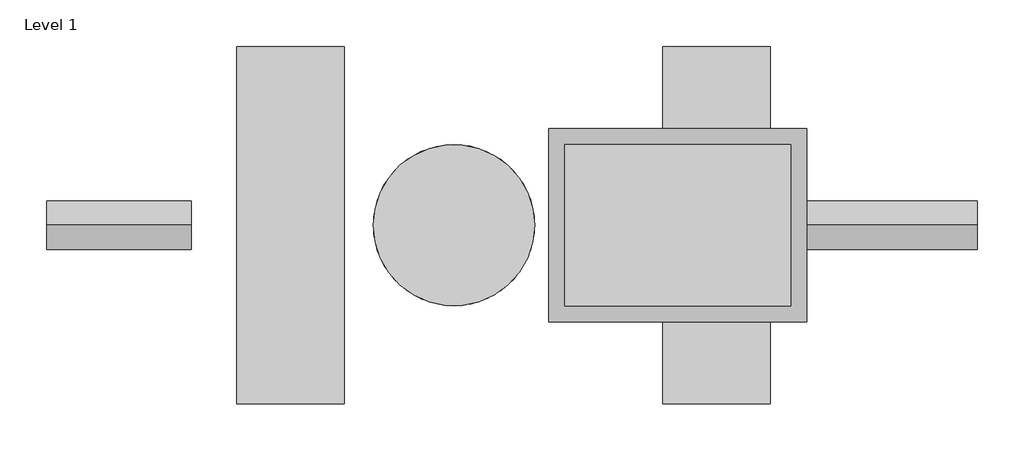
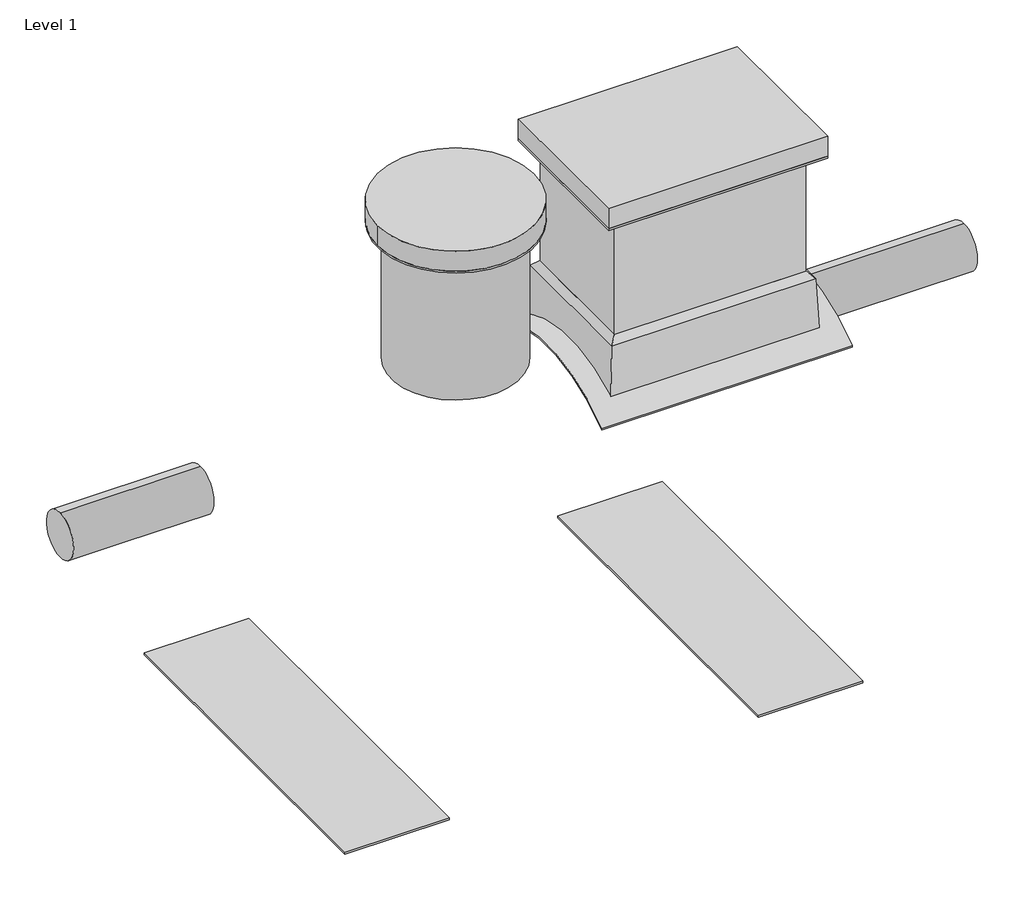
# One storey, incomplete: 9 proxies.
"""IFC4 building model written with IfcOpenShell, lengths in millimetres."""

import ifcopenshell
import ifcopenshell.guid

model = None  # the IFC model being written
_history = None  # IfcOwnerHistory: only IFC2X3 demands one
_inside = {}  # id of a spatial element -> (the spatial element, [elements in it])
_under = {}  # id of a project, library or spatial element -> (it, [spatial elements below it])
_declared = {}  # id of a project -> (the project, [libraries it declares])
_typed = {}  # id of a type object -> (the type object, [elements of that type])
_made_of = {}  # id of a material, layer set ... -> (it, [elements and type objects made of it])


def new_model(schema):
    """Start an empty IFC model of exactly this schema.

    Asked for "IFC4X3", IfcOpenShell would pick the latest addendum, in which some entities
    have other attributes; the version numbers below select the first issue.
    IFC2X3 requires an IfcOwnerHistory on every rooted entity: one is made here for all.
    """
    global model, _history
    if schema == "IFC4X3":
        model = ifcopenshell.file(schema_version=(4, 3, 0, 0))
    else:
        model = ifcopenshell.file(schema=schema)
    _inside.clear()
    _under.clear()
    _declared.clear()
    _typed.clear()
    _made_of.clear()
    _history = None
    if model.schema == "IFC2X3":
        org = make("IfcOrganization", Name="unknown")
        user = make(
            "IfcPersonAndOrganization",
            ThePerson=make("IfcPerson", FamilyName="unknown"),
            TheOrganization=org,
        )
        app = make(
            "IfcApplication",
            ApplicationDeveloper=org,
            Version="unknown",
            ApplicationFullName="unknown",
            ApplicationIdentifier="unknown",
        )
        _history = make(
            "IfcOwnerHistory",
            OwningUser=user,
            OwningApplication=app,
            ChangeAction="ADDED",
            CreationDate=0,
        )
    return model


def make(cls, **values):
    """One entity of the class cls with the attributes given. An attribute that is None is left unset."""
    return model.create_entity(
        cls, **{name: value for name, value in values.items() if value is not None}
    )


def rooted(cls, **values):
    """An entity with a GlobalId (a new one), such as an element, a storey or a relation."""
    return make(cls, GlobalId=ifcopenshell.guid.new(), OwnerHistory=_history, **values)


def si_unit(unit_type, name, prefix=None):
    """IfcSIUnit, for example si_unit("LENGTHUNIT", "METRE", prefix="MILLI")."""
    return make("IfcSIUnit", UnitType=unit_type, Prefix=prefix, Name=name)


def assignment(units):
    """IfcUnitAssignment: the units of a project."""
    return None if units is None else make("IfcUnitAssignment", Units=units)


def point(xyz):
    """IfcCartesianPoint."""
    return None if xyz is None else make("IfcCartesianPoint", Coordinates=xyz)


def direction(xyz):
    """IfcDirection."""
    return None if xyz is None else make("IfcDirection", DirectionRatios=xyz)


def frame(location, z_axis=None, x_axis=None):
    """IfcAxis2Placement3D, a coordinate frame: its origin and axes. An axis left out is left unset."""
    return make(
        "IfcAxis2Placement3D",
        Location=point(location),
        Axis=direction(z_axis),
        RefDirection=direction(x_axis),
    )


def frame_2d(location, x_axis=None):
    """IfcAxis2Placement2D, a coordinate frame in the plane: its origin and x axis."""
    return make(
        "IfcAxis2Placement2D", Location=point(location), RefDirection=direction(x_axis)
    )


def origin():
    """The frame at (0, 0, 0) with its axes left unset."""
    return frame((0.0, 0.0, 0.0))


def origin_2d():
    """The frame at (0, 0) in the plane with its x axis left unset."""
    return frame_2d((0.0, 0.0))


def place(relative_to, where):
    """IfcLocalPlacement: puts the frame where relative to a parent placement (None: the world)."""
    return make(
        "IfcLocalPlacement", PlacementRelTo=relative_to, RelativePlacement=where
    )


def context(
    kind, dimensions, precision=None, world=None, true_north=None, identifier=None
):
    """IfcGeometricRepresentationContext, for example the 3D "Model" context."""
    return make(
        "IfcGeometricRepresentationContext",
        ContextIdentifier=identifier,
        ContextType=kind,
        CoordinateSpaceDimension=dimensions,
        Precision=precision,
        WorldCoordinateSystem=world,
        TrueNorth=true_north,
    )


def project(units=None, contexts=None):
    """IfcProject with its units and contexts."""
    return rooted(
        "IfcProject",
        Name="project",
        RepresentationContexts=contexts,
        UnitsInContext=assignment(units),
    )


def spatial(cls, under=None, at=None, **own):
    """A site, building, storey or space (cls), placed at a placement, below another one or the project."""
    s = rooted(cls, ObjectPlacement=at, **own)
    if under is not None:
        _under.setdefault(under.id(), (under, []))[1].append(s)
    return s


def polyline(points):
    """IfcPolyline through the points."""
    return make("IfcPolyline", Points=[point(p) for p in points])


def circle_curve(where, radius):
    """IfcCircle in the frame where."""
    return make("IfcCircle", Position=where, Radius=radius)


def ellipse_curve(where, semi_axis1, semi_axis2):
    """IfcEllipse in the frame where."""
    return make(
        "IfcEllipse", Position=where, SemiAxis1=semi_axis1, SemiAxis2=semi_axis2
    )


def trimmed(basis, trim1, trim2, sense, master):
    """IfcTrimmedCurve: the piece of a basis curve between two trims."""
    return make(
        "IfcTrimmedCurve",
        BasisCurve=basis,
        Trim1=trim1,
        Trim2=trim2,
        SenseAgreement=sense,
        MasterRepresentation=master,
    )


def segment(curve, same_sense, transition):
    """IfcCompositeCurveSegment."""
    return make(
        "IfcCompositeCurveSegment",
        Transition=transition,
        SameSense=same_sense,
        ParentCurve=curve,
    )


def composite_curve(segments, self_intersect=None):
    """IfcCompositeCurve: segments joined end to end."""
    return make("IfcCompositeCurve", Segments=segments, SelfIntersect=self_intersect)


def outline(outer, holes=None, kind="AREA"):
    """IfcArbitraryClosedProfileDef: a profile drawn as a closed curve; with holes, ...WithVoids."""
    if holes is None:
        return make("IfcArbitraryClosedProfileDef", ProfileType=kind, OuterCurve=outer)
    return make(
        "IfcArbitraryProfileDefWithVoids",
        ProfileType=kind,
        OuterCurve=outer,
        InnerCurves=holes,
    )


def extrude(swept, where, along, depth):
    """IfcExtrudedAreaSolid: the profile swept, set in the frame where, extruded along a direction by depth."""
    return make(
        "IfcExtrudedAreaSolid",
        SweptArea=swept,
        Position=where,
        ExtrudedDirection=direction(along),
        Depth=depth,
    )


def faces_of(points, faces, orient=None, outer=None):
    """IfcFace entities. A face is a list of loops; a loop is a list of indices into points, from 0.

    orient and outer hold one flag for each loop. By default every Orientation is true, the
    first loop of a face is its IfcFaceOuterBound and the others are IfcFaceBound.
    """
    made = []
    for i, loops in enumerate(faces):
        bounds = []
        for j, loop in enumerate(loops):
            is_outer = j == 0 if outer is None else outer[i][j]
            bounds.append(
                make(
                    "IfcFaceOuterBound" if is_outer else "IfcFaceBound",
                    Bound=make("IfcPolyLoop", Polygon=[points[k] for k in loop]),
                    Orientation=True if orient is None else orient[i][j],
                )
            )
        made.append(make("IfcFace", Bounds=bounds))
    return made


def faceted_brep(points, faces, orient=None, outer=None, voids=None):
    """IfcFacetedBrep: a solid bounded by flat faces; with voids (closed shells), ...WithVoids."""
    shared = [point(p) for p in points]
    hull = make("IfcClosedShell", CfsFaces=faces_of(shared, faces, orient, outer))
    if voids is None:
        return make("IfcFacetedBrep", Outer=hull)
    return make(
        "IfcFacetedBrepWithVoids",
        Outer=hull,
        Voids=[
            make(cls, CfsFaces=faces_of(shared, fs, o, b)) for cls, fs, o, b in voids
        ],
    )


def shape(context_of_items, identifier, shape_type, items):
    """IfcShapeRepresentation: the items that make up one representation, for example the "Body"."""
    return make(
        "IfcShapeRepresentation",
        ContextOfItems=context_of_items,
        RepresentationIdentifier=identifier,
        RepresentationType=shape_type,
        Items=items,
    )


def source(mapping_origin, context_of_items, identifier, shape_type, items):
    """IfcRepresentationMap: a shape defined once, which mapped items show again and again."""
    return make(
        "IfcRepresentationMap",
        MappingOrigin=mapping_origin,
        MappedRepresentation=shape(context_of_items, identifier, shape_type, items),
    )


def transform(
    local_origin,
    x_axis=None,
    y_axis=None,
    z_axis=None,
    scale=None,
    scale2=None,
    scale3=None,
    uniform=True,
):
    """IfcCartesianTransformationOperator3D, or its non-uniform kind. x_axis, y_axis, z_axis: its Axis1, 2, 3."""
    if uniform:
        return make(
            "IfcCartesianTransformationOperator3D",
            Axis1=direction(x_axis),
            Axis2=direction(y_axis),
            LocalOrigin=point(local_origin),
            Scale=scale,
            Axis3=direction(z_axis),
        )
    return make(
        "IfcCartesianTransformationOperator3DnonUniform",
        Axis1=direction(x_axis),
        Axis2=direction(y_axis),
        LocalOrigin=point(local_origin),
        Scale=scale,
        Axis3=direction(z_axis),
        Scale2=scale2,
        Scale3=scale3,
    )


def mapped(mapping_source, mapping_target):
    """IfcMappedItem: shows the shape of a source again, moved by a transform."""
    return make(
        "IfcMappedItem", MappingSource=mapping_source, MappingTarget=mapping_target
    )


def made_of(thing, what):
    """Note that an element or type object is made of a material, layer set ...; save() writes the relation."""
    if what is not None:
        _made_of.setdefault(what.id(), (what, []))[1].append(thing)
    return thing


def element(
    cls,
    number,
    at=None,
    inside=None,
    cuts=None,
    type_object=None,
    material=None,
    context=None,
    identifier="Body",
    shape_type=None,
    held_by="IfcProductDefinitionShape",
    body=None,
    shapes=None,
    **own,
):
    """One element of the class cls, such as IfcWall. Its Tag is "e" and its number.

    at: its placement. inside: the storey or other place that contains it. cuts: it is an
    opening in that element (IfcRelVoidsElement). A single representation is given by context,
    identifier, shape_type and body (its items); several are given by shapes. held_by: the class
    of the entity that holds the representations. save() writes the other relations.
    """
    e = rooted(cls, Tag="e%d" % number, ObjectPlacement=at, **own)
    if body is not None:
        shapes = [shape(context, identifier, shape_type, body)]
    if shapes is not None:
        e.Representation = make(held_by, Representations=shapes)
    if inside is not None:
        _inside.setdefault(inside.id(), (inside, []))[1].append(e)
    if cuts is not None:
        rooted(
            "IfcRelVoidsElement", RelatingBuildingElement=cuts, RelatedOpeningElement=e
        )
    if type_object is not None:
        _typed.setdefault(type_object.id(), (type_object, []))[1].append(e)
    return made_of(e, material)


def aggregate(whole, parts):
    """IfcRelAggregates: a whole, such as a stair, and the parts it consists of."""
    return rooted("IfcRelAggregates", RelatingObject=whole, RelatedObjects=parts)


def save(model, path):
    """Write the relations noted so far, then the file.

    IfcRelAggregates (storeys below a building ...), IfcRelContainedInSpatialStructure (elements
    in a storey), IfcRelDefinesByType, IfcRelAssociatesMaterial and IfcRelDeclares: one each for
    every whole, place, type object, material and project.
    """
    for whole, parts in _under.values():
        aggregate(whole, parts)
    for where, things in _inside.values():
        rooted(
            "IfcRelContainedInSpatialStructure",
            RelatedElements=things,
            RelatingStructure=where,
        )
    for kind, things in _typed.values():
        rooted("IfcRelDefinesByType", RelatedObjects=things, RelatingType=kind)
    for what, things in _made_of.values():
        rooted("IfcRelAssociatesMaterial", RelatedObjects=things, RelatingMaterial=what)
    for by, libraries in _declared.values():
        rooted("IfcRelDeclares", RelatingContext=by, RelatedDefinitions=libraries)
    model.write(path)


def plane_surface(at):
    """IfcPlane: the flat surface through the origin of the frame at, square to its z axis."""
    return make("IfcPlane", Position=at)


def cylinder_surface(at, radius):
    """IfcCylindricalSurface: all points at the distance radius from the z axis of the frame at."""
    return make("IfcCylindricalSurface", Position=at, Radius=radius)


def revolved_surface(curve, axis_point, axis_direction):
    """IfcSurfaceOfRevolution: the curve turned about the line through axis_point along axis_direction."""
    return make(
        "IfcSurfaceOfRevolution",
        SweptCurve=make("IfcArbitraryOpenProfileDef", ProfileType="CURVE", Curve=curve),
        AxisPosition=make("IfcAxis1Placement", Location=point(axis_point), Axis=direction(axis_direction)),
    )


def advanced_brep(points, edges, surfaces, faces):
    """IfcAdvancedBrep: a solid bounded by faces that lie on surfaces and meet in shared edges.

    An edge is (start, end): straight between two places in points (the first is 0);
    or (start, end, curve); or (start, end, curve, False) where it runs against its curve.
    A face is (place in surfaces, loops), or (place, loops, False) where it looks against
    its surface's normal. A loop lists edges by number (the first is 1), with a minus sign
    where the edge is run from its end to its start. The first loop is the outer one.
    """
    corners = [point(p) for p in points]
    vertices = [make("IfcVertexPoint", VertexGeometry=c) for c in corners]
    made = []
    for start, end, *more in edges:
        made.append(
            make(
                "IfcEdgeCurve",
                EdgeStart=vertices[start],
                EdgeEnd=vertices[end],
                EdgeGeometry=more[0] if more else make("IfcPolyline", Points=[corners[start], corners[end]]),
                SameSense=more[1] if len(more) > 1 else True,
            )
        )
    hull = []
    for where, loops, *sense in faces:
        bounds = []
        for j, loop in enumerate(loops):
            ring = [make("IfcOrientedEdge", EdgeElement=made[abs(k) - 1], Orientation=k > 0) for k in loop]
            bounds.append(
                make(
                    "IfcFaceOuterBound" if j == 0 else "IfcFaceBound",
                    Bound=make("IfcEdgeLoop", EdgeList=ring),
                    Orientation=True,
                )
            )
        hull.append(make("IfcAdvancedFace", Bounds=bounds, FaceSurface=surfaces[where], SameSense=sense[0] if sense else True))
    return make("IfcAdvancedBrep", Outer=make("IfcClosedShell", CfsFaces=hull))


def generic_models_dbd98303(model_context):
    return source(origin(), model_context, "Body", "SweptSolid", [
        extrude(outline(polyline([(-832.0, 0.0), (832.0, 0.0), (832.0, -10.0), (-832.0, -10.0), (-832.0, 0.0)])), frame((0.0, 0.0, -100.0), z_axis=(0.0, 0.0, 1.0), x_axis=(1.0, 0.0, 0.0)), (0.0, 0.0, 1.0), 500.0),
    ])


def generic_models_2a316d6d(model_context):
    return source(origin(), model_context, "Body", "SweptSolid", [
        extrude(outline(composite_curve([segment(trimmed(circle_curve(origin_2d(), 375.0), [point((0.0, 375.0))], [point((0.0, -375.0))], False, "CARTESIAN"), True, "CONTINUOUS"), segment(trimmed(circle_curve(origin_2d(), 375.0), [point((0.0, -375.0))], [point((0.0, 375.0))], False, "CARTESIAN"), True, "CONTINUOUS")], self_intersect=False)), frame((0.0, 0.0, 0.0), z_axis=(0.0, 1.0, 0.0), x_axis=(0.0, 0.0, 1.0)), (0.0, 0.0, 1.0), 100.0),
    ])


def generic_models_d9ee4f9d(model_context):
    return source(origin(), model_context, "Body", "Brep", [
        faceted_brep([(308.0, -600.0, -458.0), (308.0, -600.0, 458.0), (-308.0, -600.0, 458.0), (-308.0, -600.0, -458.0), (375.0, 0.0, -525.0), (-375.0, 0.0, -525.0), (-375.0, 0.0, 525.0), (375.0, 0.0, 525.0), (-308.0, -10.0, -458.0), (308.0, -10.0, -458.0), (-375.0, -10.0, -525.0), (375.0, -10.0, -525.0), (375.0, -10.0, 525.0), (-375.0, -10.0, 525.0), (-308.0, -10.0, 458.0), (308.0, -10.0, 458.0)], [[[0, 1, 2, 3]], [[4, 5, 6, 7]], [[0, 3, 8, 9]], [[10, 11, 12, 13], [9, 8, 14, 15]], [[3, 2, 14, 8]], [[2, 1, 15, 14]], [[0, 9, 15, 1]], [[5, 4, 11, 10]], [[6, 5, 10, 13]], [[7, 6, 13, 12]], [[4, 7, 12, 11]]]),
    ])


def generic_models_efd85da4(model_context):
    return source(origin(), model_context, "Body", "SweptSolid", [
        extrude(outline(polyline([(-375.0, 0.0), (-375.0, 100.0), (375.0, 100.0), (375.0, 0.0), (-375.0, 0.0)])), frame((0.0, 0.0, -525.0), z_axis=(0.0, 0.0, 1.0), x_axis=(1.0, 0.0, 0.0)), (0.0, 0.0, 1.0), 1050.0),
    ])


def generic_models_b29504b8(model_context):
    return source(origin(), model_context, "Body", "AdvancedBrep", [
        advanced_brep(
        [(296.4984069, 250.0, -446.4984069), (-296.4984069, 250.0, -446.4984069), (-296.4984069, 250.0, 446.4984069), (296.4984069, 250.0, 446.4984069), (298.0, 207.0, -448.0), (-298.0, 207.0, -448.0), (-298.0, 207.0, 448.0), (298.0, 207.0, 448.0), (-450.0, -133.0, 600.0), (450.0, -133.0, 600.0), (450.0, -133.0, -600.0), (-450.0, -133.0, -600.0), (-348.5155988, -68.8939261, -80.0313752), (-348.5155988, -68.8939261, -498.5155988), (348.5155988, -68.8939261, -498.5155988), (348.5155988, -68.8939261, 498.5155988), (-348.5155988, -68.8939261, 498.5155988), (-348.5155988, -68.8939261, 80.0313752), (-352.0, -70.7341923, 80.1785965), (-352.0, -70.7341923, -80.1785965), (-338.1192031, 178.0204704, -488.1192031), (338.1192031, 178.0204704, -488.1192031), (-343.1185957, 59.2848957, -69.7770695), (-343.1185957, 59.2848957, 69.7770695), (-338.1192031, 178.0204704, 488.1192031), (-309.1396735, 207.0, -459.1396735), (309.1396735, 207.0, -459.1396735), (338.1192031, 178.0204704, 488.1192031), (-309.1396735, 207.0, 459.1396735), (309.1396735, 207.0, 459.1396735), (-352.0, 59.2848957, 69.7770695), (-450.0, -141.7733091, -600.0), (-450.0, -141.7733091, 600.0), (450.0, -141.7733091, -600.0), (450.0, -141.7733091, 600.0), (-352.0, 59.2848957, -69.7770695)],
        [
            (0, 1),
            (1, 2),
            (2, 3),
            (3, 0),
            (0, 4),
            (4, 5),
            (5, 1),
            (5, 6),
            (6, 2),
            (3, 7),
            (7, 4),
            (6, 7),
            (8, 9, circle_curve(frame((0.0, -733.0, 600.0), z_axis=(0.0, 0.0, -1.0), x_axis=(0.5999999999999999, 0.8, 0.0)), 750.0)),
            (9, 10),
            (10, 11, circle_curve(frame((0.0, -733.0, -600.0), z_axis=(0.0, 0.0, 1.0), x_axis=(0.5999999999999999, 0.8, 0.0)), 750.0)),
            (11, 8),
            (12, 13),
            (13, 14, ellipse_curve(frame((0.0, -733.0, -526.4779598), z_axis=(0.0, 0.04206798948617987, -0.9991147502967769), x_axis=(0.0, 0.9991147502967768, 0.042067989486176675)), 750.6645255, 750.0)),
            (14, 15),
            (15, 16, ellipse_curve(frame((0.0, -733.0, 526.4779598), z_axis=(0.0, 0.04206798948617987, 0.9991147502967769), x_axis=(0.0, -0.9991147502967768, 0.042067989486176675)), 750.6645255, 750.0)),
            (16, 17),
            (17, 18, ellipse_curve(frame((0.0, -733.0, 133.1598612), z_axis=(0.0, 0.07974522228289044, 0.9968152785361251), x_axis=(0.0, -0.9968152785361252, 0.07974522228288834)), 752.3961722, 750.0)),
            (18, 19),
            (19, 12, ellipse_curve(frame((0.0, -733.0, -133.1598612), z_axis=(0.0, 0.07974522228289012, -0.9968152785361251), x_axis=(0.0, 0.9968152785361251, 0.07974522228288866)), 752.3961722, 750.0)),
            (13, 20),
            (20, 21),
            (21, 14),
            (12, 22),
            (22, 23, ellipse_curve(frame((-343.3536343, 53.7027301, 0.0), z_axis=(0.9991147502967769, -0.04206798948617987, 0.0), x_axis=(-0.042067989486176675, -0.9991147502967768, 0.0)), 70.0620224, 70.0)),
            (23, 17),
            (16, 24),
            (24, 20),
            (20, 25),
            (25, 26),
            (26, 21),
            (15, 27),
            (27, 24),
            (24, 28),
            (28, 25),
            (27, 21),
            (26, 29),
            (29, 27),
            (29, 28),
            (23, 30),
            (30, 18),
            (11, 31),
            (31, 32),
            (32, 8),
            (31, 33, circle_curve(frame((0.0, -733.0, -600.0), z_axis=(0.0, 0.0, -1.0), x_axis=(-0.6056527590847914, -0.7957290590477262, 0.0)), 743.0)),
            (33, 34),
            (34, 32, circle_curve(frame((0.0, -733.0, 600.0), z_axis=(0.0, 0.0, 1.0), x_axis=(-0.6056527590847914, -0.7957290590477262, 0.0)), 743.0)),
            (9, 34),
            (33, 10),
            (35, 19),
            (30, 35, circle_curve(frame((-352.0, 53.7027301, 0.0), z_axis=(-1.0, 0.0, 0.0), x_axis=(0.0, 0.07974522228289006, -0.996815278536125)), 70.0)),
            (22, 35),
        ],
        [
            plane_surface(frame((248.0, 250.0, -446.4984069), z_axis=(0.0, 1.0, 0.0), x_axis=(0.0, 0.0, 1.0))),
            plane_surface(frame((-248.0, 207.0, -448.0), z_axis=(0.0, 0.03489949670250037, -0.9993908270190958), x_axis=(0.0, 0.9993908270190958, 0.03489949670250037))),
            plane_surface(frame((-298.0, 207.0, 398.0), z_axis=(-0.9993908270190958, 0.03489949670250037, 0.0), x_axis=(0.03489949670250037, 0.9993908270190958, 0.0))),
            plane_surface(frame((298.0, 207.0, -398.0), z_axis=(0.9993908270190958, 0.03489949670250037, 0.0), x_axis=(-0.03489949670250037, 0.9993908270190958, 0.0))),
            plane_surface(frame((248.0, 207.0, 448.0), z_axis=(0.0, 0.03489949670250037, 0.9993908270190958), x_axis=(0.0, 0.9993908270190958, -0.03489949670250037))),
            cylinder_surface(frame((0.0, -733.0, 0.0), z_axis=(0.0, 0.0, 1.0), x_axis=(0.5999999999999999, 0.8, 0.0)), 750.0),
            plane_surface(frame((-248.0, -299.4172684, -508.2218447), z_axis=(0.0, 0.04206798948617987, -0.9991147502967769), x_axis=(0.0, 0.9991147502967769, 0.04206798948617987))),
            plane_surface(frame((-358.2218447, -299.4172684, 398.0), z_axis=(-0.9991147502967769, 0.04206798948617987, 0.0), x_axis=(0.04206798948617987, 0.9991147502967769, 0.0))),
            plane_surface(frame((-248.0, 178.0204704, -488.1192031), z_axis=(0.0, 0.7071067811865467, -0.7071067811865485), x_axis=(0.0, 0.7071067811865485, 0.7071067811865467))),
            plane_surface(frame((248.0, -299.4172684, 508.2218447), z_axis=(0.0, 0.04206798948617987, 0.9991147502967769), x_axis=(0.0, 0.9991147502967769, -0.04206798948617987))),
            plane_surface(frame((-338.1192031, 178.0204704, 398.0), z_axis=(-0.7071067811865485, 0.7071067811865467, 0.0), x_axis=(0.7071067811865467, 0.7071067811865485, 0.0))),
            plane_surface(frame((338.1192031, 178.0204704, -398.0), z_axis=(0.7071067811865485, 0.7071067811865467, 0.0), x_axis=(-0.7071067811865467, 0.7071067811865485, 0.0))),
            plane_surface(frame((358.2218447, -299.4172684, -398.0), z_axis=(0.9991147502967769, 0.04206798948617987, 0.0), x_axis=(-0.04206798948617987, 0.9991147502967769, 0.0))),
            plane_surface(frame((248.0, 178.0204704, 488.1192031), z_axis=(0.0, 0.7071067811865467, 0.7071067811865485), x_axis=(0.0, 0.7071067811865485, -0.7071067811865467))),
            plane_surface(frame((248.0, 207.0, -459.1396735), z_axis=(0.0, 1.0, 0.0), x_axis=(0.0, 0.0, 1.0))),
            plane_surface(frame((0.0, -187.3224207, 89.5056548), z_axis=(0.0, 0.07974522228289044, 0.9968152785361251), x_axis=(0.0, 0.9968152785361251, -0.07974522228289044))),
            plane_surface(frame((-450.0, -133.0, 0.0), z_axis=(-1.0, 0.0, 0.0), x_axis=(0.0, -1.0, 0.0))),
            revolved_surface(polyline([(-450.00000000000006, -1324.2266908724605, 600.0), (-450.00000000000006, -1324.2266908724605, -600.0)]), (0.0, -733.0, 0.0), (0.0, 0.0, 1.0)),
            plane_surface(frame((450.0, -141.7733091, 0.0), z_axis=(1.0, 0.0, 0.0), x_axis=(0.0, 1.0, 0.0))),
            plane_surface(frame((-352.0, -31.8098453, 0.0), z_axis=(-1.0, 0.0, 0.0), x_axis=(0.0, 0.0, -1.0))),
            cylinder_surface(frame((0.0, 53.7027301, 0.0), z_axis=(-0.9999999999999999, 0.0, 0.0), x_axis=(0.0, 0.07974522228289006, -0.996815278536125)), 70.0),
            plane_surface(frame((0.0, -62.3866546, 600.0), z_axis=(0.0, 0.0, 1.0), x_axis=(1.0, 0.0, 0.0))),
            plane_surface(frame((0.0, -62.3866546, -600.0), z_axis=(0.0, 0.0, -1.0), x_axis=(1.0, 0.0, 0.0))),
            plane_surface(frame((0.0, 59.2848957, -69.7770695), z_axis=(0.0, 0.07974522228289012, -0.9968152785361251), x_axis=(0.0, -0.9968152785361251, -0.07974522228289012))),
        ],
        [
            (0, [[1, 2, 3, 4]]),
            (1, [[-1, 5, 6, 7]]),
            (2, [[-7, 8, 9, -2]]),
            (3, [[-4, 10, 11, -5]]),
            (4, [[-3, -9, 12, -10]]),
            (5, [[13, 14, 15, 16], [17, 18, 19, 20, 21, 22, 23, 24]]),
            (6, [[25, 26, 27, -18]]),
            (7, [[-17, 28, 29, 30, -21, 31, 32, -25]]),
            (8, [[-26, 33, 34, 35]]),
            (9, [[-20, 36, 37, -31]]),
            (10, [[-32, 38, 39, -33]]),
            (11, [[40, -35, 41, 42]]),
            (12, [[-27, -40, -36, -19]]),
            (13, [[-37, -42, 43, -38]]),
            (14, [[-34, -39, -43, -41], [-6, -11, -12, -8]]),
            (15, [[-30, 44, 45, -22]]),
            (16, [[-16, 46, 47, 48]]),
            (17, [[-47, 49, 50, 51]]),
            (18, [[-14, 52, -50, 53]]),
            (19, [[54, -23, -45, 55]]),
            (20, [[-55, -44, -29, 56]]),
            (21, [[-48, -51, -52, -13]]),
            (22, [[-46, -15, -53, -49]]),
            (23, [[-28, -24, -54, -56]]),
        ],
    ),
    ])


def proxy_600mm_riser_809a013f(model_context):
    return source(origin(), model_context, "Body", "AdvancedBrep", [
        advanced_brep(
        [(-375.0, 2490.0, 0.0), (-375.0, 2500.0, 0.0), (375.0, 2500.0, 0.0), (375.0, 2490.0, 0.0), (-308.0, 1800.0, 0.0), (-308.0, 2490.0, 0.0), (308.0, 2490.0, 0.0), (308.0, 1800.0, 0.0), (267.4864837, 1800.0, -152.6924394)],
        [
            (0, 1),
            (1, 2, circle_curve(frame((0.0, 2500.0, 0.0), z_axis=(0.0, -1.0, 0.0), x_axis=(-1.0, 0.0, 0.0)), 375.0)),
            (2, 3),
            (3, 0, circle_curve(frame((0.0, 2490.0, 0.0), z_axis=(0.0, 1.0, 0.0), x_axis=(-1.0, 0.0, 0.0)), 375.0)),
            (4, 5),
            (5, 6, circle_curve(frame((0.0, 2490.0, 0.0), z_axis=(0.0, -1.0, 0.0), x_axis=(-1.0, 0.0, 0.0)), 308.0)),
            (6, 7),
            (7, 8, circle_curve(frame((0.0, 1800.0, 0.0), z_axis=(0.0, 1.0, 0.0), x_axis=(-1.0, 0.0, 0.0)), 308.0)),
            (8, 4, circle_curve(frame((0.0, 1800.0, 0.0), z_axis=(0.0, 1.0, 0.0), x_axis=(-1.0, 0.0, 0.0)), 308.0)),
            (1, 2, circle_curve(frame((0.0, 2500.0, 0.0), z_axis=(0.0, 1.0, 0.0), x_axis=(-1.0, 0.0, 0.0)), 375.0)),
            (7, 4, circle_curve(frame((0.0, 1800.0, 0.0), z_axis=(0.0, -1.0, 0.0), x_axis=(-1.0, 0.0, 0.0)), 308.0)),
            (6, 5, circle_curve(frame((0.0, 2490.0, 0.0), z_axis=(0.0, -1.0, 0.0), x_axis=(-1.0, 0.0, 0.0)), 308.0)),
            (3, 0, circle_curve(frame((0.0, 2490.0, 0.0), z_axis=(0.0, -1.0, 0.0), x_axis=(-1.0, 0.0, 0.0)), 375.0)),
        ],
        [
            cylinder_surface(frame((0.0, 2495.0, 0.0), z_axis=(0.0, 1.0, 0.0), x_axis=(-1.0, 0.0, 0.0)), 375.0),
            cylinder_surface(frame((0.0, 1245.0, 0.0), z_axis=(0.0, 1.0, 0.0), x_axis=(-1.0, 0.0, 0.0)), 308.0),
            plane_surface(frame((-300.0, 2500.0, 0.0), z_axis=(0.0, 1.0, 0.0), x_axis=(0.0, 0.0, 1.0))),
            plane_surface(frame((0.0, 1800.0, 0.0), z_axis=(0.0, -1.0, 0.0), x_axis=(-0.49575467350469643, 0.0, -0.8684626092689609))),
            plane_surface(frame((-375.0, 2490.0, 0.0), z_axis=(0.0, -1.0, 0.0), x_axis=(0.0, 0.0, -1.0))),
        ],
        [
            (0, [[1, 2, 3, 4]]),
            (1, [[5, 6, 7, 8, 9]]),
            (2, [[10, -2]]),
            (3, [[-9, -8, 11]]),
            (1, [[-5, -11, -7, 12]]),
            (4, [[13, -4], [-12, -6]]),
            (0, [[-1, -13, -3, -10]]),
        ],
    ),
    ])


def iso_4065_pipe_dn225x1_8xs63_1000_9bbd7cee(model_context):
    return source(origin(), model_context, "Body", "AdvancedBrep", [
        advanced_brep(
        [(203.3, -112.5, 0.0), (1080.0, -112.5, 0.0), (1080.0, 112.5, 0.0), (203.3, 112.5, 0.0), (203.3, 0.0, -112.5)],
        [
            (0, 1),
            (1, 2, circle_curve(frame((1080.0, 0.0, 0.0), z_axis=(-1.0, 0.0, 0.0), x_axis=(0.0, -1.0, 0.0)), 112.5)),
            (2, 3),
            (3, 0, circle_curve(frame((203.3, 0.0, 0.0), z_axis=(1.0, 0.0, 0.0), x_axis=(0.0, -1.0, 0.0)), 112.5)),
            (1, 2, circle_curve(frame((1080.0, 0.0, 0.0), z_axis=(1.0, 0.0, 0.0), x_axis=(0.0, -1.0, 0.0)), 112.5)),
            (3, 4, circle_curve(frame((203.3, 0.0, 0.0), z_axis=(-1.0, 0.0, 0.0), x_axis=(0.0, -1.0, 0.0)), 112.5)),
            (4, 0, circle_curve(frame((203.3, 0.0, 0.0), z_axis=(-1.0, 0.0, 0.0), x_axis=(0.0, -1.0, 0.0)), 112.5)),
        ],
        [
            cylinder_surface(frame((0.0, 0.0, 0.0), z_axis=(1.0, 0.0, 0.0), x_axis=(0.0, -1.0, 0.0)), 112.5),
            plane_surface(frame((1080.0, 0.0, 0.0), z_axis=(1.0, 0.0, 0.0), x_axis=(0.0, 0.0, 1.0))),
            plane_surface(frame((203.3, 0.0, 0.0), z_axis=(-1.0, 0.0, 0.0), x_axis=(0.0, 0.0, -1.0))),
        ],
        [
            (0, [[1, 2, 3, 4]]),
            (1, [[5, -2]]),
            (2, [[6, 7, -4]]),
            (0, [[-1, -7, -6, -3, -5]]),
        ],
    ),
    ])


def iso_4065_pipe_dn225x1_8xs63_1000_1_7a503d00(model_context):
    return source(origin(), model_context, "Body", "AdvancedBrep", [
        advanced_brep(
        [(0.0, -112.5, 0.0), (671.9, -112.5, 0.0), (671.9, 0.0, 112.5), (671.9, 112.5, 0.0), (0.0, 112.5, 0.0)],
        [
            (0, 1),
            (1, 2, circle_curve(frame((671.9, 0.0, 0.0), z_axis=(-1.0, 0.0, 0.0), x_axis=(0.0, -1.0, 0.0)), 112.5)),
            (2, 3, circle_curve(frame((671.9, 0.0, 0.0), z_axis=(-1.0, 0.0, 0.0), x_axis=(0.0, -1.0, 0.0)), 112.5)),
            (3, 4),
            (4, 0, circle_curve(frame((0.0, 0.0, 0.0), z_axis=(1.0, 0.0, 0.0), x_axis=(0.0, -1.0, 0.0)), 112.5)),
            (4, 0, circle_curve(frame((0.0, 0.0, 0.0), z_axis=(-1.0, 0.0, 0.0), x_axis=(0.0, -1.0, 0.0)), 112.5)),
            (1, 3, circle_curve(frame((671.9, 0.0, 0.0), z_axis=(1.0, 0.0, 0.0), x_axis=(0.0, -1.0, 0.0)), 112.5)),
        ],
        [
            cylinder_surface(frame((0.0, 0.0, 0.0), z_axis=(1.0, 0.0, 0.0), x_axis=(0.0, -1.0, 0.0)), 112.5),
            plane_surface(frame((0.0, 0.0, 0.0), z_axis=(-1.0, 0.0, 0.0), x_axis=(0.0, 0.0, 1.0))),
            plane_surface(frame((671.9, 0.0, 0.0), z_axis=(1.0, 0.0, 0.0), x_axis=(0.0, 0.0, 1.0))),
        ],
        [
            (0, [[1, 2, 3, 4, 5]]),
            (1, [[6, -5]]),
            (2, [[-3, -2, 7]]),
            (0, [[-1, -6, -4, -7]]),
        ],
    ),
    ])


model = new_model("IFC4")

# Units and contexts
model_context = context("Model", 3, world=origin())
ifc_project = project(units=[si_unit("LENGTHUNIT", "METRE", prefix="MILLI")], contexts=[model_context])

# Site, building, storey
site = spatial("IfcSite", under=ifc_project)
building = spatial("IfcBuilding", under=site)
storey = spatial("IfcBuildingStorey", under=building, Name="Level 1", Elevation=0.0)

# Proxies
placement = place(None, origin())
generic_models_shape = generic_models_dbd98303(model_context)
element("IfcBuildingElementProxy", 1, Name="SU.HS.FOOT.1500", ObjectType="SU.HS.FOOT.1500", at=placement, inside=storey, context=model_context, shape_type="MappedRepresentation", body=[
    mapped(generic_models_shape, transform((2041.8312223, 0.0, -2018.6517773), x_axis=(0.0, 1.0, 0.0), y_axis=(0.0, 0.0, 1.0), z_axis=(1.0, 0.0, 0.0))),
])
element("IfcBuildingElementProxy", 2, Name="SU.HS.FOOT.1500", ObjectType="SU.HS.FOOT.1500", at=placement, inside=storey, context=model_context, shape_type="MappedRepresentation", body=[
    mapped(generic_models_shape, transform((4021.8677949, 0.0, -2018.6517773), x_axis=(0.0, 1.0, 0.0), y_axis=(0.0, 0.0, 1.0), z_axis=(1.0, 0.0, 0.0))),
])
generic_models_2_shape = generic_models_2a316d6d(model_context)
element("IfcBuildingElementProxy", 3, Name="600mm Cass D Cover-01", ObjectType="600mm Cass D Cover-01", at=placement, inside=storey, context=model_context, shape_type="MappedRepresentation", body=[
    mapped(generic_models_2_shape, transform((2952.0228349, 0.0, 328.3482227), x_axis=(1.0, 0.0, 0.0), y_axis=(0.0, 0.0, 1.0), z_axis=(0.0, -1.0, 0.0))),
])
generic_models_3_shape = generic_models_d9ee4f9d(model_context)
element("IfcBuildingElementProxy", 4, Name="600x900 - 600mm Manway Riser", ObjectType="600x900 - 600mm Manway Riser", at=placement, inside=storey, context=model_context, shape_type="MappedRepresentation", body=[
    mapped(generic_models_3_shape, transform((3992.6324936, 0.0, 328.3482227), x_axis=(0.0, 1.0, 0.0), y_axis=(0.0, 0.0, 1.0), z_axis=(1.0, 0.0, 0.0))),
])
generic_models_4_shape = generic_models_efd85da4(model_context)
element("IfcBuildingElementProxy", 5, Name="600x900mm Manway Cover-D", ObjectType="600x900mm Manway Cover-D", at=placement, inside=storey, context=model_context, shape_type="MappedRepresentation", body=[
    mapped(generic_models_4_shape, transform((3992.6324936, 0.0, 328.3482227), x_axis=(0.0, 1.0, 0.0), y_axis=(0.0, 0.0, 1.0), z_axis=(1.0, 0.0, 0.0))),
])
generic_models_5_shape = generic_models_b29504b8(model_context)
element("IfcBuildingElementProxy", 6, Name="SU.MRADAPTOR.1500.600Lx900W", ObjectType="SU.MRADAPTOR.1500.600Lx900W", at=placement, inside=storey, context=model_context, shape_type="MappedRepresentation", body=[
    mapped(generic_models_5_shape, transform((3992.6324936, 0.0, -478.6517773), x_axis=(0.0, -1.0, 0.0), y_axis=(0.0, 0.0, 1.0), z_axis=(-1.0, 0.0, 0.0))),
])
proxy_600mm_riser_shape = proxy_600mm_riser_809a013f(model_context)
element("IfcBuildingElementProxy", 7, Name="600mm Riser", ObjectType="600mm Riser", at=placement, inside=storey, context=model_context, shape_type="MappedRepresentation", body=[
    mapped(proxy_600mm_riser_shape, transform((2952.0228349, 0.0, -2171.6517773), x_axis=(0.8684626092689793, -0.4957546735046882, 0.0), y_axis=(0.0, 0.0, 0.9999999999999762), z_axis=(-0.4957546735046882, -0.8684626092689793, 0.0))),
])
iso_4065_pipe_dn225x1_8xs63_1000_shape = iso_4065_pipe_dn225x1_8xs63_1000_9bbd7cee(model_context)
element("IfcBuildingElementProxy", 8, Name="ISO 4065 Pipe DN225x1.8xS63 - 1000", ObjectType="ISO 4065 Pipe DN225x1.8xS63 - 1000", at=placement, inside=storey, context=model_context, shape_type="MappedRepresentation", body=[
    mapped(iso_4065_pipe_dn225x1_8xs63_1000_shape, transform((5589.1801232, 0.0, -657.1517773), x_axis=(-1.0, 0.0, 0.0), y_axis=(0.0, 0.0, -1.0), z_axis=(0.0, -1.0, 0.0))),
])
iso_4065_pipe_dn225x1_8xs63_1000_1_shape = iso_4065_pipe_dn225x1_8xs63_1000_1_7a503d00(model_context)
element("IfcBuildingElementProxy", 9, Name="ISO 4065 Pipe DN225x1.8xS63 - 1000_1", ObjectType="ISO 4065 Pipe DN225x1.8xS63 - 1000_1", at=placement, inside=storey, context=model_context, shape_type="MappedRepresentation", body=[
    mapped(iso_4065_pipe_dn225x1_8xs63_1000_1_shape, transform((1730.0000924, 0.0, -607.1517773), x_axis=(-1.0, 0.0, 0.0), y_axis=(0.0, 0.0, -1.0), z_axis=(0.0, -1.0, 0.0))),
])

save(model, "model.ifc")
